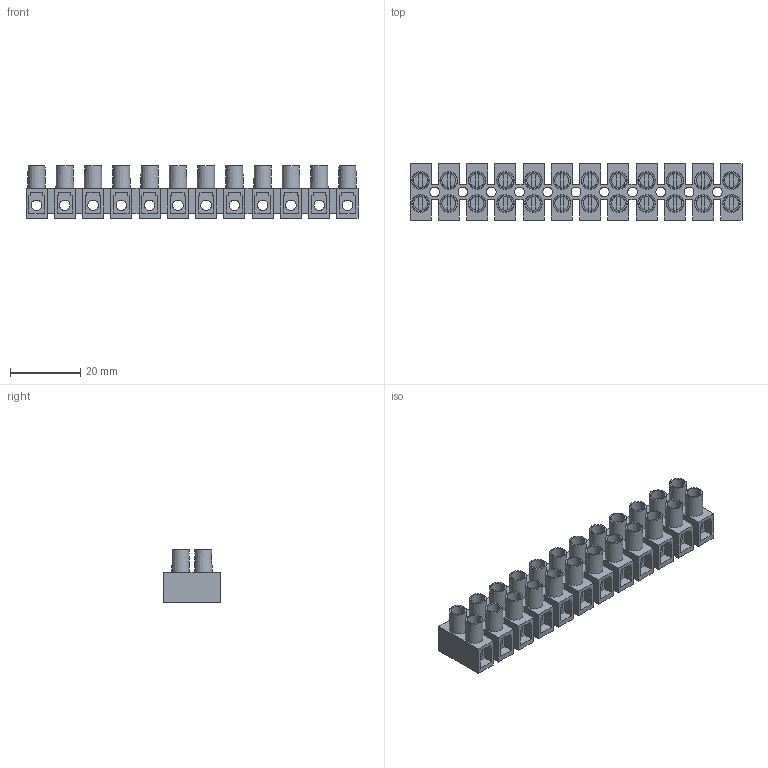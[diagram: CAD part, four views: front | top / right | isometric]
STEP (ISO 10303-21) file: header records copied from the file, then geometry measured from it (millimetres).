
FILE_DESCRIPTION(/* description */ ('Unknown'),/* implementation_level */ '2;1');
FILE_NAME(/* name */ 'MT 1804 PH',/* time_stamp */ '2021-10-08T10:11:38+02:00',/* author */ ('Unknown'),/* organization */ ('Unknown'),/* preprocessor_version */ 'ST-DEVELOPER v16.7',/* originating_system */ 'Solid Edge',/* authorisation */ 'Unknown');
FILE_SCHEMA (('AUTOMOTIVE_DESIGN {1 0 10303 214 3 1 1}'));
Length unit declared in the file: millimetre
Products named in the file (1): MT 1804 PH
Bounding box: 94.55 x 16 x 15 mm (x, y, z)
Volume: 9045.5 mm3; surface area: 13294.4 mm2
Topology: 1 solids, 1 shells, 618 faces, 1641 edges, 1098 vertices
Faces by surface type: plane 547, cylinder 47, cone 24
Full cylindrical faces by diameter (mm): 2.8 x11, 3 x12, 4 x24
Entity records: 18372 total; most frequent: CARTESIAN_POINT 3193, ORIENTED_EDGE 3046, DIRECTION 3008, EDGE_CURVE 1523, LINE 1276, VECTOR 1276, VERTEX_POINT 1051, AXIS2_PLACEMENT_3D 866
